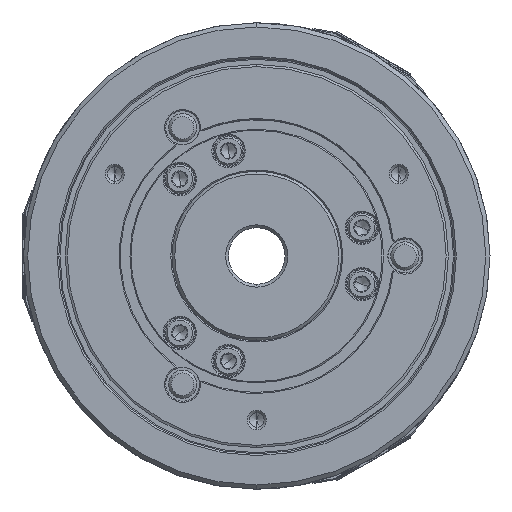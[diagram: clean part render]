
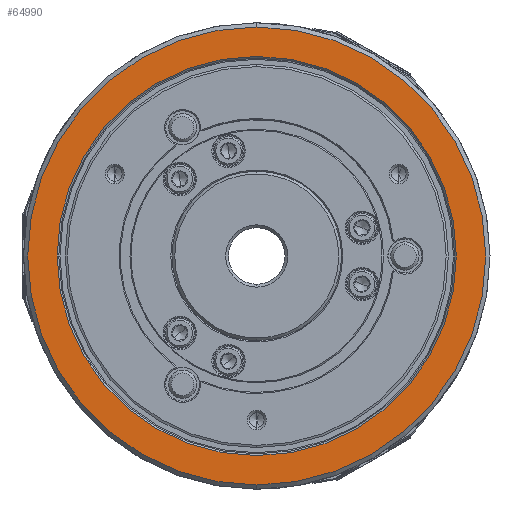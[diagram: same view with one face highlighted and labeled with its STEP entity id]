
A CAD part, left-side view. The second image highlights one B-rep face of the part: STEP entity #64990.
In plain terms, the highlighted planar face has unit normal (-1, 0, 0).
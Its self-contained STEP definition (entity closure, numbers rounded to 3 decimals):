
#2361 = DIRECTION ( 'NONE',  ( 1., 0., 0. ) ) ;
#2864 = ORIENTED_EDGE ( 'NONE', *, *, #72318, .F. ) ;
#4498 = DIRECTION ( 'NONE',  ( 0., 0., 1. ) ) ;
#11318 = CARTESIAN_POINT ( 'NONE',  ( -81., 70.6, 0. ) ) ;
#13875 = ORIENTED_EDGE ( 'NONE', *, *, #20999, .T. ) ;
#18250 = DIRECTION ( 'NONE',  ( 0., 0., -1. ) ) ;
#19788 = CIRCLE ( 'NONE', #44470, 70.6 ) ;
#20999 = EDGE_CURVE ( 'NONE', #38816, #26827, #19788, .T. ) ;
#21277 = DIRECTION ( 'NONE',  ( 1., 0., 0. ) ) ;
#24218 = EDGE_LOOP ( 'NONE', ( #13875, #43072 ) ) ;
#25751 = VERTEX_POINT ( 'NONE', #48201 ) ;
#26827 = VERTEX_POINT ( 'NONE', #55281 ) ;
#28904 = ORIENTED_EDGE ( 'NONE', *, *, #53883, .F. ) ;
#35794 = CARTESIAN_POINT ( 'NONE',  ( -81., 0., -81. ) ) ;
#37327 = AXIS2_PLACEMENT_3D ( 'NONE', #54534, #21277, #41292 ) ;
#38816 = VERTEX_POINT ( 'NONE', #50143 ) ;
#41229 = AXIS2_PLACEMENT_3D ( 'NONE', #59931, #2361, #53113 ) ;
#41292 = DIRECTION ( 'NONE',  ( 0., 0., -1. ) ) ;
#42339 = CARTESIAN_POINT ( 'NONE',  ( -81., 0., 0. ) ) ;
#42462 = FACE_BOUND ( 'NONE', #24218, .T. ) ;
#43072 = ORIENTED_EDGE ( 'NONE', *, *, #56668, .T. ) ;
#43129 = EDGE_LOOP ( 'NONE', ( #2864, #28904 ) ) ;
#43713 = PLANE ( 'NONE',  #75983 ) ;
#44040 = VERTEX_POINT ( 'NONE', #35794 ) ;
#44470 = AXIS2_PLACEMENT_3D ( 'NONE', #50644, #76590, #18250 ) ;
#44713 = DIRECTION ( 'NONE',  ( 0., 0., -1. ) ) ;
#48201 = CARTESIAN_POINT ( 'NONE',  ( -81., 0., 81. ) ) ;
#50095 = FACE_OUTER_BOUND ( 'NONE', #43129, .T. ) ;
#50143 = CARTESIAN_POINT ( 'NONE',  ( -81., 0., 70.6 ) ) ;
#50644 = CARTESIAN_POINT ( 'NONE',  ( -81., 0., 0. ) ) ;
#53113 = DIRECTION ( 'NONE',  ( 0., 0., -1. ) ) ;
#53883 = EDGE_CURVE ( 'NONE', #25751, #44040, #62638, .T. ) ;
#54534 = CARTESIAN_POINT ( 'NONE',  ( -81., 0., 0. ) ) ;
#55281 = CARTESIAN_POINT ( 'NONE',  ( -81., 0., -70.6 ) ) ;
#56668 = EDGE_CURVE ( 'NONE', #26827, #38816, #77910, .T. ) ;
#57236 = AXIS2_PLACEMENT_3D ( 'NONE', #42339, #64771, #44713 ) ;
#59931 = CARTESIAN_POINT ( 'NONE',  ( -81., 0., 0. ) ) ;
#62638 = CIRCLE ( 'NONE', #57236, 81. ) ;
#64771 = DIRECTION ( 'NONE',  ( 1., 0., 0. ) ) ;
#64990 = ADVANCED_FACE ( 'NONE', ( #42462, #50095 ), #43713, .T. ) ;
#72318 = EDGE_CURVE ( 'NONE', #44040, #25751, #74067, .T. ) ;
#74067 = CIRCLE ( 'NONE', #37327, 81. ) ;
#75983 = AXIS2_PLACEMENT_3D ( 'NONE', #11318, #76056, #4498 ) ;
#76056 = DIRECTION ( 'NONE',  ( -1., 0., 0. ) ) ;
#76590 = DIRECTION ( 'NONE',  ( 1., 0., 0. ) ) ;
#77910 = CIRCLE ( 'NONE', #41229, 70.6 ) ;
